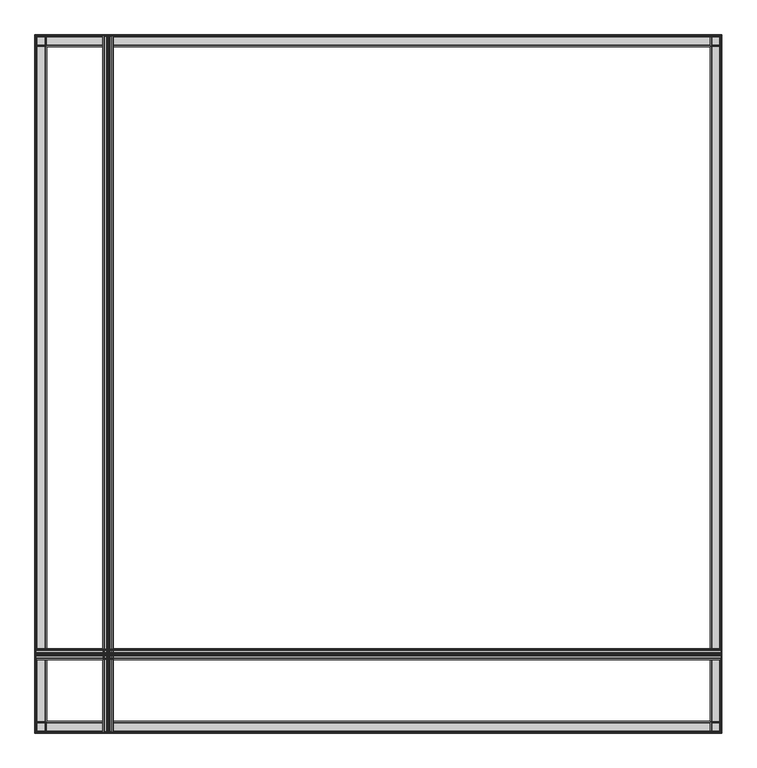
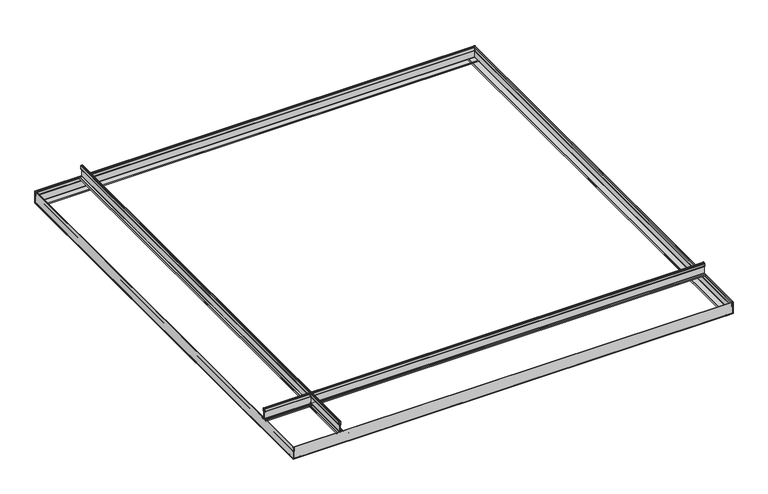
"""IFC4 building model written with IfcOpenShell, lengths in millimetres: proxy geometry, Maxxit_Piramid-Ceiling_rev-01 : Maxxit_Piramid-Ceiling_Solo."""

from ifc_helpers import new_model, si_unit, point, frame, frame_2d, origin, place, context, project, spatial, polyline, circle_curve, trimmed, segment, composite_curve, outline, extrude, source, transform, mapped, element, save


def generic_models_713ed56a(model_context):
    return source(origin(), model_context, "Body", "SweptSolid", [
        extrude(outline(composite_curve([segment(trimmed(circle_curve(frame_2d((178.1521622, 27.4883115)), 1.143), [point((178.1521622, 26.3453115))], [point((177.0091622, 27.4883115))], False, "CARTESIAN"), True, "CONTINUOUS"), segment(trimmed(circle_curve(frame_2d((175.8661622, 27.4883115)), 1.143), [point((177.0091622, 27.4883115))], [point((175.8661622, 26.3453115))], False, "CARTESIAN"), True, "CONTINUOUS"), segment(polyline([(175.8661622, 26.3453115), (166.6632271, 26.0290179), (166.6632271, 27.0486923), (175.2595431, 27.0486923)]), True, "CONTINUOUS"), segment(trimmed(circle_curve(frame_2d((175.2595431, 28.0053766)), 0.9566843), [point((175.2595431, 27.0486923))], [point((176.2162274, 28.0053766))], True, "CARTESIAN"), True, "CONTINUOUS"), segment(polyline([(176.2162274, 28.0053766), (176.2162274, 53.7436541)]), True, "CONTINUOUS"), segment(trimmed(circle_curve(frame_2d((175.4835556, 53.6130577)), 0.74422), [point((176.2162274, 53.7436541))], [point((175.5271464, 54.356))], True, "CARTESIAN"), True, "CONTINUOUS"), segment(trimmed(circle_curve(frame_2d((175.2680297, 58.371716)), 4.0240672), [point((175.5271464, 54.356))], [point((174.5805705, 54.4068054))], False, "CARTESIAN"), True, "CONTINUOUS"), segment(trimmed(circle_curve(frame_2d((174.938326, 55.7865501)), 1.4253717), [point((174.5805705, 54.4068054))], [point((173.5129543, 55.7865501))], False, "CARTESIAN"), True, "CONTINUOUS"), segment(polyline([(173.5129543, 55.7865501), (173.5129543, 64.7585942)]), True, "CONTINUOUS"), segment(trimmed(circle_curve(frame_2d((175.5630392, 64.8150812)), 2.0508629), [point((173.5129543, 64.7585942))], [point((174.1128601, 66.2652603))], False, "CARTESIAN"), True, "CONTINUOUS"), segment(polyline([(174.1128601, 66.2652603), (176.0184323, 68.1708325)]), True, "CONTINUOUS"), segment(trimmed(circle_curve(frame_2d((177.00625, 67.1830148)), 1.3969852), [point((176.0184323, 68.1708325))], [point((177.9940677, 68.1708325))], False, "CARTESIAN"), True, "CONTINUOUS"), segment(polyline([(177.9940677, 68.1708325), (179.8996399, 66.2652603)]), True, "CONTINUOUS"), segment(trimmed(circle_curve(frame_2d((178.4494608, 64.8150812)), 2.0508629), [point((179.8996399, 66.2652603))], [point((180.4995457, 64.7585942))], False, "CARTESIAN"), True, "CONTINUOUS"), segment(polyline([(180.4995457, 64.7585942), (180.4995457, 55.7865501)]), True, "CONTINUOUS"), segment(trimmed(circle_curve(frame_2d((179.074174, 55.7865501)), 1.4253717), [point((180.4995457, 55.7865501))], [point((179.4319295, 54.4068054))], False, "CARTESIAN"), True, "CONTINUOUS"), segment(trimmed(circle_curve(frame_2d((178.7444703, 58.371716)), 4.0240672), [point((179.4319295, 54.4068054))], [point((178.4853536, 54.356))], False, "CARTESIAN"), True, "CONTINUOUS"), segment(trimmed(circle_curve(frame_2d((178.5289444, 53.6130577)), 0.74422), [point((178.4853536, 54.356))], [point((177.802097, 53.7729211))], True, "CARTESIAN"), True, "CONTINUOUS"), segment(polyline([(177.802097, 53.7729211), (177.802097, 28.0053766)]), True, "CONTINUOUS"), segment(trimmed(circle_curve(frame_2d((178.7587813, 28.0053766)), 0.9566843), [point((177.802097, 28.0053766))], [point((178.7587813, 27.0486923))], True, "CARTESIAN"), True, "CONTINUOUS"), segment(polyline([(178.7587813, 27.0486923), (186.5221882, 27.0486923), (186.5221882, 26.0364605), (178.1521622, 26.3453115)]), True, "CONTINUOUS")], self_intersect=False), holes=[composite_curve([segment(trimmed(circle_curve(frame_2d((178.0758577, 54.058724)), 1.0922), [point((177.00625, 54.2797221))], [point((178.0758577, 55.150924))], False, "CARTESIAN"), True, "CONTINUOUS"), segment(polyline([(178.0758577, 55.150924), (179.0662785, 55.150924)]), True, "CONTINUOUS"), segment(trimmed(circle_curve(frame_2d((179.0662785, 55.7859245)), 0.6350005), [point((179.0662785, 55.150924))], [point((179.701279, 55.7859245))], True, "CARTESIAN"), True, "CONTINUOUS"), segment(polyline([(179.701279, 55.7859245), (179.701279, 64.7585942)]), True, "CONTINUOUS"), segment(trimmed(circle_curve(frame_2d((178.1984359, 64.7240599)), 1.5032399), [point((179.701279, 64.7585942))], [point((179.3383739, 65.7039943))], True, "CARTESIAN"), True, "CONTINUOUS"), segment(polyline([(179.3383739, 65.7039943), (177.4328017, 67.6095665)]), True, "CONTINUOUS"), segment(trimmed(circle_curve(frame_2d((177.00625, 67.1830148)), 0.6032352), [point((177.4328017, 67.6095665))], [point((176.5796983, 67.6095665))], True, "CARTESIAN"), True, "CONTINUOUS"), segment(polyline([(176.5796983, 67.6095665), (174.6741261, 65.7039943)]), True, "CONTINUOUS"), segment(trimmed(circle_curve(frame_2d((175.8140641, 64.7240599)), 1.5032399), [point((174.6741261, 65.7039943))], [point((174.311221, 64.7585942))], True, "CARTESIAN"), True, "CONTINUOUS"), segment(polyline([(174.311221, 64.7585942), (174.311221, 55.7859245)]), True, "CONTINUOUS"), segment(trimmed(circle_curve(frame_2d((174.9462215, 55.7859245)), 0.6350005), [point((174.311221, 55.7859245))], [point((174.9462215, 55.150924))], True, "CARTESIAN"), True, "CONTINUOUS"), segment(polyline([(174.9462215, 55.150924), (175.9366423, 55.150924)]), True, "CONTINUOUS"), segment(trimmed(circle_curve(frame_2d((175.9366423, 54.058724)), 1.0922), [point((175.9366423, 55.150924))], [point((177.00625, 54.2797221))], False, "CARTESIAN"), True, "CONTINUOUS")], self_intersect=False)]), frame((-0.79375, 0.0, 0.0), z_axis=(1.0, 0.0, 0.0), x_axis=(0.0, 1.0, 0.0)), (0.0, 0.0, 1.0), 1549.4),
        extrude(outline(composite_curve([segment(polyline([(187.4419885, 25.4), (166.5705115, 25.4)]), True, "CONTINUOUS"), segment(trimmed(circle_curve(frame_2d((166.5705115, 26.8823557)), 1.4823557), [point((166.5705115, 25.4))], [point((166.9415525, 28.3175237))], False, "CARTESIAN"), True, "CONTINUOUS"), segment(polyline([(166.9415525, 28.3175237), (168.4677295, 27.887022), (168.2522387, 27.123083), (166.7360297, 27.550773)]), True, "CONTINUOUS"), segment(trimmed(circle_curve(frame_2d((166.5705115, 26.8823557)), 0.6886057), [point((166.7360297, 27.550773))], [point((166.5705115, 26.19375))], True, "CARTESIAN"), True, "CONTINUOUS"), segment(polyline([(166.5705115, 26.19375), (187.4419885, 26.19375)]), True, "CONTINUOUS"), segment(trimmed(circle_curve(frame_2d((187.4419885, 26.8823557)), 0.6886057), [point((187.4419885, 26.19375))], [point((187.2764703, 27.550773))], True, "CARTESIAN"), True, "CONTINUOUS"), segment(polyline([(187.2764703, 27.550773), (185.7602613, 27.123083), (185.5447705, 27.887022), (187.0709475, 28.3175237)]), True, "CONTINUOUS"), segment(trimmed(circle_curve(frame_2d((187.4419885, 26.8823557)), 1.4823557), [point((187.0709475, 28.3175237))], [point((187.4419885, 25.4))], False, "CARTESIAN"), True, "CONTINUOUS")], self_intersect=False)), frame((-0.79375, 0.0, 0.0), z_axis=(1.0, 0.0, 0.0), x_axis=(0.0, 1.0, 0.0)), (0.0, 0.0, 1.0), 1549.4),
        extrude(outline(composite_curve([segment(polyline([(-14.9820313, 1548.5762526), (-14.1882813, 1548.5762526), (-14.1882813, 1523.8809145)]), True, "CONTINUOUS"), segment(trimmed(circle_curve(frame_2d((-13.4996755, 1523.8809145)), 0.6886057), [point((-14.1882813, 1523.8809145))], [point((-12.8312583, 1524.0464327))], True, "CARTESIAN"), True, "CONTINUOUS"), segment(polyline([(-12.8312583, 1524.0464327), (-13.2589482, 1525.5626417), (-12.4950092, 1525.7781325), (-12.0645075, 1524.2519555)]), True, "CONTINUOUS"), segment(trimmed(circle_curve(frame_2d((-13.4996755, 1523.8809145)), 1.4823557), [point((-12.0645075, 1524.2519555))], [point((-14.9820313, 1523.8809145))], False, "CARTESIAN"), True, "CONTINUOUS"), segment(polyline([(-14.9820313, 1523.8809145), (-14.9820313, 1548.5762526)]), True, "CONTINUOUS")], self_intersect=False)), frame((0.0, -0.79375, 0.0), z_axis=(0.0, 1.0, 0.0), x_axis=(0.0, 0.0, 1.0)), (0.0, 0.0, 1.0), 1574.8),
        extrude(outline(composite_curve([segment(trimmed(circle_curve(frame_2d((26.9918874, 1547.810403)), 1.3969852), [point((28.1400142, 1548.60625))], [point((27.9797051, 1546.8225853))], False, "CARTESIAN"), True, "CONTINUOUS"), segment(polyline([(27.9797051, 1546.8225853), (26.0741329, 1544.9170131)]), True, "CONTINUOUS"), segment(trimmed(circle_curve(frame_2d((24.6239538, 1546.3671922)), 2.0508629), [point((26.0741329, 1544.9170131))], [point((24.5674668, 1544.3171073))], False, "CARTESIAN"), True, "CONTINUOUS"), segment(polyline([(24.5674668, 1544.3171073), (14.4241684, 1544.3171073)]), True, "CONTINUOUS"), segment(trimmed(circle_curve(frame_2d((14.4241684, 1545.742479)), 1.4253717), [point((14.4241684, 1544.3171073))], [point((13.0444237, 1545.3847235))], False, "CARTESIAN"), True, "CONTINUOUS"), segment(trimmed(circle_curve(frame_2d((17.0093343, 1546.0721827)), 4.0240672), [point((13.0444237, 1545.3847235))], [point((12.9936183, 1546.3312994))], False, "CARTESIAN"), True, "CONTINUOUS"), segment(trimmed(circle_curve(frame_2d((12.250676, 1546.2877086)), 0.74422), [point((12.9936183, 1546.3312994))], [point((12.3812724, 1547.0203804))], True, "CARTESIAN"), True, "CONTINUOUS"), segment(polyline([(12.3812724, 1547.0203804), (-12.3766547, 1547.0203804)]), True, "CONTINUOUS"), segment(trimmed(circle_curve(frame_2d((-12.3766547, 1546.0636961)), 0.9566843), [point((-12.3766547, 1547.0203804))], [point((-13.333339, 1546.0636961))], True, "CARTESIAN"), True, "CONTINUOUS"), segment(polyline([(-13.333339, 1546.0636961), (-13.333339, 1523.9736301), (-14.3530133, 1523.9736301), (-14.0306827, 1547.3459287)]), True, "CONTINUOUS"), segment(trimmed(circle_curve(frame_2d((-12.8937197, 1547.46325)), 1.143), [point((-14.0306827, 1547.3459287))], [point((-12.8937197, 1548.60625))], False, "CARTESIAN"), True, "CONTINUOUS"), segment(polyline([(-12.8937197, 1548.60625), (28.1400142, 1548.60625)]), True, "CONTINUOUS")], self_intersect=False), holes=[composite_curve([segment(trimmed(circle_curve(frame_2d((14.4235428, 1547.1729828)), 0.6350005), [point((14.4235428, 1547.8079833))], [point((13.7885423, 1547.1729828))], True, "CARTESIAN"), True, "CONTINUOUS"), segment(polyline([(13.7885423, 1547.1729828), (13.7885423, 1545.7503744)]), True, "CONTINUOUS"), segment(trimmed(circle_curve(frame_2d((14.4235428, 1545.7503744)), 0.6350005), [point((13.7885423, 1545.7503744))], [point((14.4235428, 1545.115374))], True, "CARTESIAN"), True, "CONTINUOUS"), segment(polyline([(14.4235428, 1545.115374), (24.5674668, 1545.115374)]), True, "CONTINUOUS"), segment(trimmed(circle_curve(frame_2d((24.5329325, 1546.6182171)), 1.5032399), [point((24.5674668, 1545.115374))], [point((25.5128669, 1545.4782791))], True, "CARTESIAN"), True, "CONTINUOUS"), segment(polyline([(25.5128669, 1545.4782791), (27.8425711, 1547.8079833), (14.4235428, 1547.8079833)]), True, "CONTINUOUS")], self_intersect=False)]), frame((0.0, -0.79375, 0.0), z_axis=(0.0, 1.0, 0.0), x_axis=(0.0, 0.0, 1.0)), (0.0, 0.0, 1.0), 1574.8),
        extrude(outline(composite_curve([segment(polyline([(1573.9762526, -14.9820313), (1549.2809145, -14.9820313)]), True, "CONTINUOUS"), segment(trimmed(circle_curve(frame_2d((1549.2809145, -13.4996755)), 1.4823557), [point((1549.2809145, -14.9820313))], [point((1549.6519555, -12.0645075))], False, "CARTESIAN"), True, "CONTINUOUS"), segment(polyline([(1549.6519555, -12.0645075), (1551.1781325, -12.4950092), (1550.9626417, -13.2589482), (1549.4464327, -12.8312583)]), True, "CONTINUOUS"), segment(trimmed(circle_curve(frame_2d((1549.2809145, -13.4996755)), 0.6886057), [point((1549.4464327, -12.8312583))], [point((1549.2809145, -14.1882813))], True, "CARTESIAN"), True, "CONTINUOUS"), segment(polyline([(1549.2809145, -14.1882813), (1573.9762526, -14.1882813), (1573.9762526, -14.9820313)]), True, "CONTINUOUS")], self_intersect=False)), frame((-0.79375, 0.0, 0.0), z_axis=(1.0, 0.0, 0.0), x_axis=(0.0, 1.0, 0.0)), (0.0, 0.0, 1.0), 1549.4),
        extrude(outline(composite_curve([segment(polyline([(1574.00625, 28.1400142), (1574.00625, -12.8937197)]), True, "CONTINUOUS"), segment(trimmed(circle_curve(frame_2d((1572.86325, -12.8937197)), 1.143), [point((1574.00625, -12.8937197))], [point((1572.7459287, -14.0306827))], False, "CARTESIAN"), True, "CONTINUOUS"), segment(polyline([(1572.7459287, -14.0306827), (1549.3736301, -14.3530133), (1549.3736301, -13.333339), (1571.4636961, -13.333339)]), True, "CONTINUOUS"), segment(trimmed(circle_curve(frame_2d((1571.4636961, -12.3766547)), 0.9566843), [point((1571.4636961, -13.333339))], [point((1572.4203804, -12.3766547))], True, "CARTESIAN"), True, "CONTINUOUS"), segment(polyline([(1572.4203804, -12.3766547), (1572.4203804, 12.3812724)]), True, "CONTINUOUS"), segment(trimmed(circle_curve(frame_2d((1571.6877086, 12.250676)), 0.74422), [point((1572.4203804, 12.3812724))], [point((1571.7312994, 12.9936183))], True, "CARTESIAN"), True, "CONTINUOUS"), segment(trimmed(circle_curve(frame_2d((1571.4721827, 17.0093343)), 4.0240672), [point((1571.7312994, 12.9936183))], [point((1570.7847235, 13.0444237))], False, "CARTESIAN"), True, "CONTINUOUS"), segment(trimmed(circle_curve(frame_2d((1571.142479, 14.4241684)), 1.4253717), [point((1570.7847235, 13.0444237))], [point((1569.7171073, 14.4241684))], False, "CARTESIAN"), True, "CONTINUOUS"), segment(polyline([(1569.7171073, 14.4241684), (1569.7171073, 24.5674668)]), True, "CONTINUOUS"), segment(trimmed(circle_curve(frame_2d((1571.7671922, 24.6239538)), 2.0508629), [point((1569.7171073, 24.5674668))], [point((1570.3170131, 26.0741329))], False, "CARTESIAN"), True, "CONTINUOUS"), segment(polyline([(1570.3170131, 26.0741329), (1572.2225853, 27.9797051)]), True, "CONTINUOUS"), segment(trimmed(circle_curve(frame_2d((1573.210403, 26.9918874)), 1.3969852), [point((1572.2225853, 27.9797051))], [point((1574.00625, 28.1400142))], False, "CARTESIAN"), True, "CONTINUOUS")], self_intersect=False), holes=[composite_curve([segment(polyline([(1573.2079833, 14.4235428), (1573.2079833, 27.8425711), (1570.8782791, 25.5128669)]), True, "CONTINUOUS"), segment(trimmed(circle_curve(frame_2d((1572.0182171, 24.5329325)), 1.5032399), [point((1570.8782791, 25.5128669))], [point((1570.515374, 24.5674668))], True, "CARTESIAN"), True, "CONTINUOUS"), segment(polyline([(1570.515374, 24.5674668), (1570.515374, 14.4235428)]), True, "CONTINUOUS"), segment(trimmed(circle_curve(frame_2d((1571.1503744, 14.4235428)), 0.6350005), [point((1570.515374, 14.4235428))], [point((1571.1503744, 13.7885423))], True, "CARTESIAN"), True, "CONTINUOUS"), segment(polyline([(1571.1503744, 13.7885423), (1572.5729828, 13.7885423)]), True, "CONTINUOUS"), segment(trimmed(circle_curve(frame_2d((1572.5729828, 14.4235428)), 0.6350005), [point((1572.5729828, 13.7885423))], [point((1573.2079833, 14.4235428))], True, "CARTESIAN"), True, "CONTINUOUS")], self_intersect=False)]), frame((-0.79375, 0.0, 0.0), z_axis=(1.0, 0.0, 0.0), x_axis=(0.0, 1.0, 0.0)), (0.0, 0.0, 1.0), 1549.4),
        extrude(outline(composite_curve([segment(polyline([(-14.9820313, -0.7637526), (-14.9820313, 23.9315855)]), True, "CONTINUOUS"), segment(trimmed(circle_curve(frame_2d((-13.4996755, 23.9315855)), 1.4823557), [point((-14.9820313, 23.9315855))], [point((-12.0645075, 23.5605445))], False, "CARTESIAN"), True, "CONTINUOUS"), segment(polyline([(-12.0645075, 23.5605445), (-12.4950092, 22.0343675), (-13.2589482, 22.2498583), (-12.8312583, 23.7660673)]), True, "CONTINUOUS"), segment(trimmed(circle_curve(frame_2d((-13.4996755, 23.9315855)), 0.6886057), [point((-12.8312583, 23.7660673))], [point((-14.1882813, 23.9315855))], True, "CARTESIAN"), True, "CONTINUOUS"), segment(polyline([(-14.1882813, 23.9315855), (-14.1882813, -0.7637526), (-14.9820313, -0.7637526)]), True, "CONTINUOUS")], self_intersect=False)), frame((0.0, -0.79375, 0.0), z_axis=(0.0, 1.0, 0.0), x_axis=(0.0, 0.0, 1.0)), (0.0, 0.0, 1.0), 1574.8),
        extrude(outline(composite_curve([segment(polyline([(28.1400142, -0.79375), (-12.8937197, -0.79375)]), True, "CONTINUOUS"), segment(trimmed(circle_curve(frame_2d((-12.8937197, 0.34925)), 1.143), [point((-12.8937197, -0.79375))], [point((-14.0306827, 0.4665713))], False, "CARTESIAN"), True, "CONTINUOUS"), segment(polyline([(-14.0306827, 0.4665713), (-14.3530133, 23.8388699), (-13.333339, 23.8388699), (-13.333339, 1.7488039)]), True, "CONTINUOUS"), segment(trimmed(circle_curve(frame_2d((-12.3766547, 1.7488039)), 0.9566843), [point((-13.333339, 1.7488039))], [point((-12.3766547, 0.7921196))], True, "CARTESIAN"), True, "CONTINUOUS"), segment(polyline([(-12.3766547, 0.7921196), (12.3812724, 0.7921196)]), True, "CONTINUOUS"), segment(trimmed(circle_curve(frame_2d((12.250676, 1.5247914)), 0.74422), [point((12.3812724, 0.7921196))], [point((12.9936183, 1.4812006))], True, "CARTESIAN"), True, "CONTINUOUS"), segment(trimmed(circle_curve(frame_2d((17.0093343, 1.7403173)), 4.0240672), [point((12.9936183, 1.4812006))], [point((13.0444237, 2.4277765))], False, "CARTESIAN"), True, "CONTINUOUS"), segment(trimmed(circle_curve(frame_2d((14.4241684, 2.070021)), 1.4253717), [point((13.0444237, 2.4277765))], [point((14.4241684, 3.4953927))], False, "CARTESIAN"), True, "CONTINUOUS"), segment(polyline([(14.4241684, 3.4953927), (24.5674668, 3.4953927)]), True, "CONTINUOUS"), segment(trimmed(circle_curve(frame_2d((24.6239538, 1.4453078)), 2.0508629), [point((24.5674668, 3.4953927))], [point((26.0741329, 2.8954869))], False, "CARTESIAN"), True, "CONTINUOUS"), segment(polyline([(26.0741329, 2.8954869), (27.9797051, 0.9899147)]), True, "CONTINUOUS"), segment(trimmed(circle_curve(frame_2d((26.9918874, 0.002097)), 1.3969852), [point((27.9797051, 0.9899147))], [point((28.1400142, -0.79375))], False, "CARTESIAN"), True, "CONTINUOUS")], self_intersect=False), holes=[composite_curve([segment(polyline([(14.4235428, 0.0045167), (27.8425711, 0.0045167), (25.5128669, 2.3342209)]), True, "CONTINUOUS"), segment(trimmed(circle_curve(frame_2d((24.5329325, 1.1942829)), 1.5032399), [point((25.5128669, 2.3342209))], [point((24.5674668, 2.697126))], True, "CARTESIAN"), True, "CONTINUOUS"), segment(polyline([(24.5674668, 2.697126), (14.4235428, 2.697126)]), True, "CONTINUOUS"), segment(trimmed(circle_curve(frame_2d((14.4235428, 2.0621256)), 0.6350005), [point((14.4235428, 2.697126))], [point((13.7885423, 2.0621256))], True, "CARTESIAN"), True, "CONTINUOUS"), segment(polyline([(13.7885423, 2.0621256), (13.7885423, 0.6395172)]), True, "CONTINUOUS"), segment(trimmed(circle_curve(frame_2d((14.4235428, 0.6395172)), 0.6350005), [point((13.7885423, 0.6395172))], [point((14.4235428, 0.0045167))], True, "CARTESIAN"), True, "CONTINUOUS")], self_intersect=False)]), frame((0.0, -0.79375, 0.0), z_axis=(0.0, 1.0, 0.0), x_axis=(0.0, 0.0, 1.0)), (0.0, 0.0, 1.0), 1574.8),
        extrude(outline(composite_curve([segment(polyline([(-0.7637526, -14.9820313), (-0.7637526, -14.1882813), (23.9315855, -14.1882813)]), True, "CONTINUOUS"), segment(trimmed(circle_curve(frame_2d((23.9315855, -13.4996755)), 0.6886057), [point((23.9315855, -14.1882813))], [point((23.7660673, -12.8312583))], True, "CARTESIAN"), True, "CONTINUOUS"), segment(polyline([(23.7660673, -12.8312583), (22.2498583, -13.2589482), (22.0343675, -12.4950092), (23.5605445, -12.0645075)]), True, "CONTINUOUS"), segment(trimmed(circle_curve(frame_2d((23.9315855, -13.4996755)), 1.4823557), [point((23.5605445, -12.0645075))], [point((23.9315855, -14.9820313))], False, "CARTESIAN"), True, "CONTINUOUS"), segment(polyline([(23.9315855, -14.9820313), (-0.7637526, -14.9820313)]), True, "CONTINUOUS")], self_intersect=False)), frame((-0.79375, 0.0, 0.0), z_axis=(1.0, 0.0, 0.0), x_axis=(0.0, 1.0, 0.0)), (0.0, 0.0, 1.0), 1549.4),
        extrude(outline(composite_curve([segment(trimmed(circle_curve(frame_2d((0.002097, 26.9918874)), 1.3969852), [point((-0.79375, 28.1400142))], [point((0.9899147, 27.9797051))], False, "CARTESIAN"), True, "CONTINUOUS"), segment(polyline([(0.9899147, 27.9797051), (2.8954869, 26.0741329)]), True, "CONTINUOUS"), segment(trimmed(circle_curve(frame_2d((1.4453078, 24.6239538)), 2.0508629), [point((2.8954869, 26.0741329))], [point((3.4953927, 24.5674668))], False, "CARTESIAN"), True, "CONTINUOUS"), segment(polyline([(3.4953927, 24.5674668), (3.4953927, 14.4241684)]), True, "CONTINUOUS"), segment(trimmed(circle_curve(frame_2d((2.070021, 14.4241684)), 1.4253717), [point((3.4953927, 14.4241684))], [point((2.4277765, 13.0444237))], False, "CARTESIAN"), True, "CONTINUOUS"), segment(trimmed(circle_curve(frame_2d((1.7403173, 17.0093343)), 4.0240672), [point((2.4277765, 13.0444237))], [point((1.4812006, 12.9936183))], False, "CARTESIAN"), True, "CONTINUOUS"), segment(trimmed(circle_curve(frame_2d((1.5247914, 12.250676)), 0.74422), [point((1.4812006, 12.9936183))], [point((0.7921196, 12.3812724))], True, "CARTESIAN"), True, "CONTINUOUS"), segment(polyline([(0.7921196, 12.3812724), (0.7921196, -12.3766547)]), True, "CONTINUOUS"), segment(trimmed(circle_curve(frame_2d((1.7488039, -12.3766547)), 0.9566843), [point((0.7921196, -12.3766547))], [point((1.7488039, -13.333339))], True, "CARTESIAN"), True, "CONTINUOUS"), segment(polyline([(1.7488039, -13.333339), (23.8388699, -13.333339), (23.8388699, -14.3530133), (0.4665713, -14.0306827)]), True, "CONTINUOUS"), segment(trimmed(circle_curve(frame_2d((0.34925, -12.8937197)), 1.143), [point((0.4665713, -14.0306827))], [point((-0.79375, -12.8937197))], False, "CARTESIAN"), True, "CONTINUOUS"), segment(polyline([(-0.79375, -12.8937197), (-0.79375, 28.1400142)]), True, "CONTINUOUS")], self_intersect=False), holes=[composite_curve([segment(trimmed(circle_curve(frame_2d((0.6395172, 14.4235428)), 0.6350005), [point((0.0045167, 14.4235428))], [point((0.6395172, 13.7885423))], True, "CARTESIAN"), True, "CONTINUOUS"), segment(polyline([(0.6395172, 13.7885423), (2.0621256, 13.7885423)]), True, "CONTINUOUS"), segment(trimmed(circle_curve(frame_2d((2.0621256, 14.4235428)), 0.6350005), [point((2.0621256, 13.7885423))], [point((2.697126, 14.4235428))], True, "CARTESIAN"), True, "CONTINUOUS"), segment(polyline([(2.697126, 14.4235428), (2.697126, 24.5674668)]), True, "CONTINUOUS"), segment(trimmed(circle_curve(frame_2d((1.1942829, 24.5329325)), 1.5032399), [point((2.697126, 24.5674668))], [point((2.3342209, 25.5128669))], True, "CARTESIAN"), True, "CONTINUOUS"), segment(polyline([(2.3342209, 25.5128669), (0.0045167, 27.8425711), (0.0045167, 14.4235428)]), True, "CONTINUOUS")], self_intersect=False)]), frame((-0.79375, 0.0, 0.0), z_axis=(1.0, 0.0, 0.0), x_axis=(0.0, 1.0, 0.0)), (0.0, 0.0, 1.0), 1549.4),
        extrude(outline(composite_curve([segment(polyline([(26.3453115, 165.4521622), (26.0364605, 173.8221882), (27.0486923, 173.8221882), (27.0486923, 166.0587813)]), True, "CONTINUOUS"), segment(trimmed(circle_curve(frame_2d((28.0053766, 166.0587813)), 0.9566843), [point((27.0486923, 166.0587813))], [point((28.0053766, 165.102097))], True, "CARTESIAN"), True, "CONTINUOUS"), segment(polyline([(28.0053766, 165.102097), (53.7729211, 165.102097)]), True, "CONTINUOUS"), segment(trimmed(circle_curve(frame_2d((53.6130577, 165.8289444)), 0.74422), [point((53.7729211, 165.102097))], [point((54.356, 165.7853536))], True, "CARTESIAN"), True, "CONTINUOUS"), segment(trimmed(circle_curve(frame_2d((58.371716, 166.0444703)), 4.0240672), [point((54.356, 165.7853536))], [point((54.4068054, 166.7319295))], False, "CARTESIAN"), True, "CONTINUOUS"), segment(trimmed(circle_curve(frame_2d((55.7865501, 166.374174)), 1.4253717), [point((54.4068054, 166.7319295))], [point((55.7865501, 167.7995457))], False, "CARTESIAN"), True, "CONTINUOUS"), segment(polyline([(55.7865501, 167.7995457), (64.7585942, 167.7995457)]), True, "CONTINUOUS"), segment(trimmed(circle_curve(frame_2d((64.8150812, 165.7494608)), 2.0508629), [point((64.7585942, 167.7995457))], [point((66.2652603, 167.1996399))], False, "CARTESIAN"), True, "CONTINUOUS"), segment(polyline([(66.2652603, 167.1996399), (68.1708325, 165.2940677)]), True, "CONTINUOUS"), segment(trimmed(circle_curve(frame_2d((67.1830148, 164.30625)), 1.3969852), [point((68.1708325, 165.2940677))], [point((68.1708325, 163.3184323))], False, "CARTESIAN"), True, "CONTINUOUS"), segment(polyline([(68.1708325, 163.3184323), (66.2652603, 161.4128601)]), True, "CONTINUOUS"), segment(trimmed(circle_curve(frame_2d((64.8150812, 162.8630392)), 2.0508629), [point((66.2652603, 161.4128601))], [point((64.7585942, 160.8129543))], False, "CARTESIAN"), True, "CONTINUOUS"), segment(polyline([(64.7585942, 160.8129543), (55.7865501, 160.8129543)]), True, "CONTINUOUS"), segment(trimmed(circle_curve(frame_2d((55.7865501, 162.238326)), 1.4253717), [point((55.7865501, 160.8129543))], [point((54.4068054, 161.8805705))], False, "CARTESIAN"), True, "CONTINUOUS"), segment(trimmed(circle_curve(frame_2d((58.371716, 162.5680297)), 4.0240672), [point((54.4068054, 161.8805705))], [point((54.356, 162.8271464))], False, "CARTESIAN"), True, "CONTINUOUS"), segment(trimmed(circle_curve(frame_2d((53.6130577, 162.7835556)), 0.74422), [point((54.356, 162.8271464))], [point((53.7436541, 163.5162274))], True, "CARTESIAN"), True, "CONTINUOUS"), segment(polyline([(53.7436541, 163.5162274), (28.0053766, 163.5162274)]), True, "CONTINUOUS"), segment(trimmed(circle_curve(frame_2d((28.0053766, 162.5595431)), 0.9566843), [point((28.0053766, 163.5162274))], [point((27.0486923, 162.5595431))], True, "CARTESIAN"), True, "CONTINUOUS"), segment(polyline([(27.0486923, 162.5595431), (27.0486923, 153.9632271), (26.0290179, 153.9632271), (26.3453115, 163.1661622)]), True, "CONTINUOUS"), segment(trimmed(circle_curve(frame_2d((27.4883115, 163.1661622)), 1.143), [point((26.3453115, 163.1661622))], [point((27.4883115, 164.3091622))], False, "CARTESIAN"), True, "CONTINUOUS"), segment(trimmed(circle_curve(frame_2d((27.4883115, 165.4521622)), 1.143), [point((27.4883115, 164.3091622))], [point((26.3453115, 165.4521622))], False, "CARTESIAN"), True, "CONTINUOUS")], self_intersect=False), holes=[composite_curve([segment(trimmed(circle_curve(frame_2d((54.058724, 163.2366423)), 1.0922), [point((54.2797221, 164.30625))], [point((55.150924, 163.2366423))], False, "CARTESIAN"), True, "CONTINUOUS"), segment(polyline([(55.150924, 163.2366423), (55.150924, 162.2462215)]), True, "CONTINUOUS"), segment(trimmed(circle_curve(frame_2d((55.7859245, 162.2462215)), 0.6350005), [point((55.150924, 162.2462215))], [point((55.7859245, 161.611221))], True, "CARTESIAN"), True, "CONTINUOUS"), segment(polyline([(55.7859245, 161.611221), (64.7585942, 161.611221)]), True, "CONTINUOUS"), segment(trimmed(circle_curve(frame_2d((64.7240599, 163.1140641)), 1.5032399), [point((64.7585942, 161.611221))], [point((65.7039943, 161.9741261))], True, "CARTESIAN"), True, "CONTINUOUS"), segment(polyline([(65.7039943, 161.9741261), (67.6095665, 163.8796983)]), True, "CONTINUOUS"), segment(trimmed(circle_curve(frame_2d((67.1830148, 164.30625)), 0.6032352), [point((67.6095665, 163.8796983))], [point((67.6095665, 164.7328017))], True, "CARTESIAN"), True, "CONTINUOUS"), segment(polyline([(67.6095665, 164.7328017), (65.7039943, 166.6383739)]), True, "CONTINUOUS"), segment(trimmed(circle_curve(frame_2d((64.7240599, 165.4984359)), 1.5032399), [point((65.7039943, 166.6383739))], [point((64.7585942, 167.001279))], True, "CARTESIAN"), True, "CONTINUOUS"), segment(polyline([(64.7585942, 167.001279), (55.7859245, 167.001279)]), True, "CONTINUOUS"), segment(trimmed(circle_curve(frame_2d((55.7859245, 166.3662785)), 0.6350005), [point((55.7859245, 167.001279))], [point((55.150924, 166.3662785))], True, "CARTESIAN"), True, "CONTINUOUS"), segment(polyline([(55.150924, 166.3662785), (55.150924, 165.3758577)]), True, "CONTINUOUS"), segment(trimmed(circle_curve(frame_2d((54.058724, 165.3758577)), 1.0922), [point((55.150924, 165.3758577))], [point((54.2797221, 164.30625))], False, "CARTESIAN"), True, "CONTINUOUS")], self_intersect=False)]), frame((0.0, -0.79375, 0.0), z_axis=(0.0, 1.0, 0.0), x_axis=(0.0, 0.0, 1.0)), (0.0, 0.0, 1.0), 1574.8),
        extrude(outline(composite_curve([segment(trimmed(circle_curve(frame_2d((26.8823557, 174.7419885)), 1.4823557), [point((25.4, 174.7419885))], [point((28.3175237, 174.3709475))], False, "CARTESIAN"), True, "CONTINUOUS"), segment(polyline([(28.3175237, 174.3709475), (27.887022, 172.8447705), (27.123083, 173.0602613), (27.550773, 174.5764703)]), True, "CONTINUOUS"), segment(trimmed(circle_curve(frame_2d((26.8823557, 174.7419885)), 0.6886057), [point((27.550773, 174.5764703))], [point((26.19375, 174.7419885))], True, "CARTESIAN"), True, "CONTINUOUS"), segment(polyline([(26.19375, 174.7419885), (26.19375, 153.8705115)]), True, "CONTINUOUS"), segment(trimmed(circle_curve(frame_2d((26.8823557, 153.8705115)), 0.6886057), [point((26.19375, 153.8705115))], [point((27.550773, 154.0360297))], True, "CARTESIAN"), True, "CONTINUOUS"), segment(polyline([(27.550773, 154.0360297), (27.123083, 155.5522387), (27.887022, 155.7677295), (28.3175237, 154.2415525)]), True, "CONTINUOUS"), segment(trimmed(circle_curve(frame_2d((26.8823557, 153.8705115)), 1.4823557), [point((28.3175237, 154.2415525))], [point((25.4, 153.8705115))], False, "CARTESIAN"), True, "CONTINUOUS"), segment(polyline([(25.4, 153.8705115), (25.4, 174.7419885)]), True, "CONTINUOUS")], self_intersect=False)), frame((0.0, -0.79375, 0.0), z_axis=(0.0, 1.0, 0.0), x_axis=(0.0, 0.0, 1.0)), (0.0, 0.0, 1.0), 1574.8),
    ])


if __name__ == "__main__":
    model = new_model("IFC4")
    model_context = context("Model", 3, world=origin())
    ifc_project = project(units=[si_unit("LENGTHUNIT", "METRE", prefix="MILLI")], contexts=[model_context])
    site = spatial("IfcSite", under=ifc_project)
    building = spatial("IfcBuilding", under=site)
    placement = place(None, origin())
    generic_models_shape = generic_models_713ed56a(model_context)
    element("IfcBuildingElementProxy", 1, Name="Maxxit_Piramid-Ceiling_rev-01 : Maxxit_Piramid-Ceiling_Solo", ObjectType="Maxxit_Piramid-Ceiling_rev-01 : Maxxit_Piramid-Ceiling_Solo", at=placement, inside=building, context=model_context, shape_type="MappedRepresentation", body=[
        mapped(generic_models_shape, transform((0.0, 0.0, 0.0), x_axis=(1.0, 0.0, 0.0), y_axis=(0.0, 1.0, 0.0), z_axis=(0.0, 0.0, 1.0))),
    ])
    save(model, "model.ifc")
